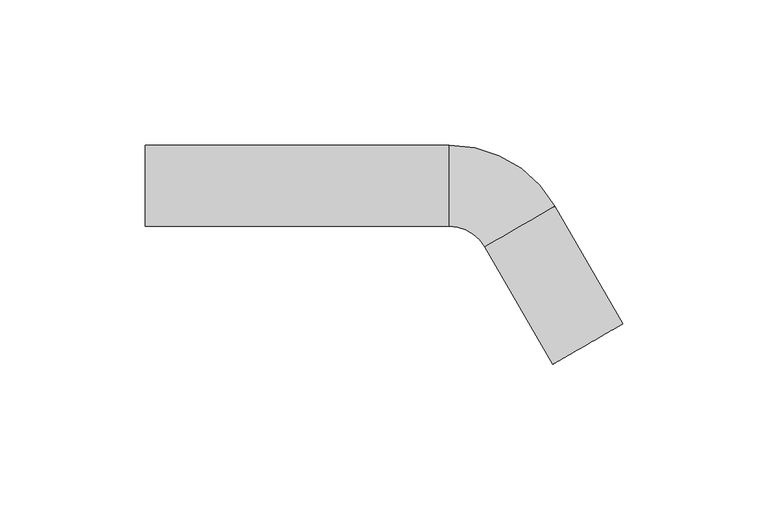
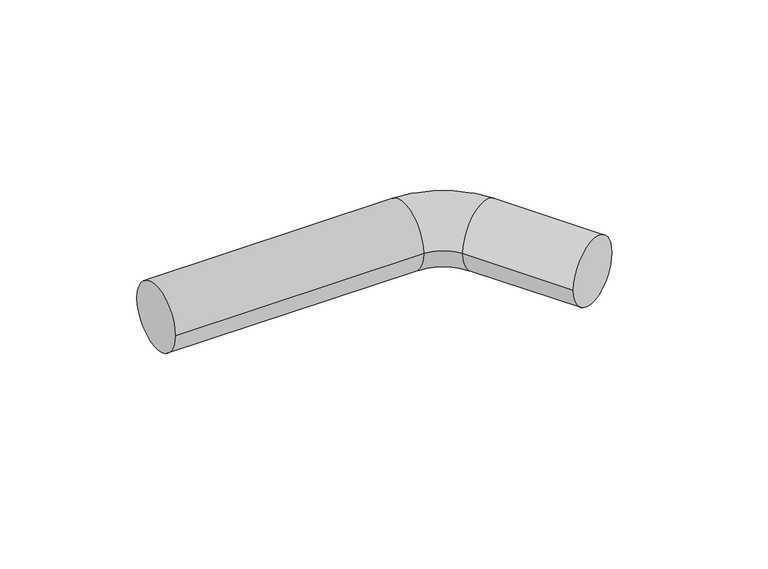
"""IFC4 building model written with IfcOpenShell, lengths in millimetres: pipe fitting geometry, KAN-therm Inox łuk 60 : KAN-therm Inox łuk 60."""

from ifc_helpers import new_model, si_unit, point, frame, origin, place, context, project, spatial, circle_curve, ellipse_curve, trimmed, source, transform, mapped, element, save
from ifc_brep_helpers import plane_surface, cylinder_surface, revolved_surface, advanced_brep


def pipe_fitting_a09a2b74(model_context):
    return source(origin(), model_context, "Body", "AdvancedBrep", [
        advanced_brep(
        [(164.6243557, -47.5596004, 0.0), (140.3756443, -61.5596004, 0.0), (104.8341925, -14.0, 0.0), (116.9585481, -21.0, 0.0), (141.2072594, -7.0, 0.0), (104.8341925, 14.0, 0.0), (0.0, 14.0, 0.0), (0.0, -14.0, 0.0)],
        [
            (0, 1, circle_curve(frame((152.5, -54.5596004, 0.0), z_axis=(0.49999999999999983, -0.8660254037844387, 0.0), x_axis=(-0.8660254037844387, -0.49999999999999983, 0.0)), 14.0)),
            (1, 0, circle_curve(frame((152.5, -54.5596004, 0.0), z_axis=(0.49999999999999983, -0.8660254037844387, 0.0), x_axis=(-0.8660254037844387, -0.49999999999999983, 0.0)), 14.0)),
            (2, 3, circle_curve(frame((104.8341925, -28.0, 0.0), z_axis=(0.0, 0.0, -1.0), x_axis=(0.8660254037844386, 0.5, 0.0)), 14.0)),
            (3, 4, circle_curve(frame((129.0829038, -14.0, 0.0), z_axis=(-0.49999999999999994, 0.8660254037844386, 0.0), x_axis=(-0.8660254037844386, -0.49999999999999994, 0.0)), 14.0)),
            (4, 5, circle_curve(frame((104.8341925, -28.0, 0.0), z_axis=(0.0, 0.0, 1.0), x_axis=(0.8660254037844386, 0.5, 0.0)), 42.0)),
            (5, 2, circle_curve(frame((104.8341925, 0.0, 0.0), z_axis=(1.0, 0.0, 0.0), x_axis=(0.0, -1.0, 0.0)), 14.0)),
            (4, 3, circle_curve(frame((129.0829038, -14.0, 0.0), z_axis=(-0.49999999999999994, 0.8660254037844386, 0.0), x_axis=(-0.8660254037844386, -0.49999999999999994, 0.0)), 14.0)),
            (2, 5, circle_curve(frame((104.8341925, 0.0, 0.0), z_axis=(1.0, 0.0, 0.0), x_axis=(0.0, -1.0, 0.0)), 14.0)),
            (6, 7, circle_curve(frame((0.0, 0.0, 0.0), z_axis=(-1.0, 0.0, 0.0), x_axis=(0.0, -1.0, 0.0)), 14.0)),
            (7, 6, circle_curve(frame((0.0, 0.0, 0.0), z_axis=(-1.0, 0.0, 0.0), x_axis=(0.0, -1.0, 0.0)), 14.0)),
            (5, 6),
            (7, 2),
            (0, 4),
            (3, 1),
        ],
        [
            plane_surface(frame((152.5, -54.5596004, 0.0), z_axis=(0.49999999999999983, -0.8660254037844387, 0.0), x_axis=(0.0, 0.0, 1.0))),
            revolved_surface(trimmed(ellipse_curve(frame((129.0829038, -14.0, 0.0), z_axis=(0.49999999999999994, -0.8660254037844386, 0.0), x_axis=(-0.8660254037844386, -0.49999999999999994, 0.0)), 14.0, 14.0), [point((141.2072594, -7.0, 0.0))], [point((116.9585481, -21.0, 0.0))], True, "CARTESIAN"), (104.8341925, -28.0, 0.0), (0.0, 0.0, 1.0)),
            revolved_surface(trimmed(ellipse_curve(frame((129.0829038, -14.0, 0.0), z_axis=(0.49999999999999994, -0.8660254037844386, 0.0), x_axis=(-0.8660254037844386, -0.49999999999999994, 0.0)), 14.0, 14.0), [point((116.9585481, -21.0, 0.0))], [point((141.2072594, -7.0, 0.0))], True, "CARTESIAN"), (104.8341925, -28.0, 0.0), (0.0, 0.0, 1.0)),
            plane_surface(frame((0.0, 0.0, 0.0), z_axis=(-1.0, 0.0, 0.0), x_axis=(0.0, 0.0, 1.0))),
            cylinder_surface(frame((104.8341925, 0.0, 0.0), z_axis=(1.0, 0.0, 0.0), x_axis=(0.0, -1.0, 0.0)), 14.0),
            cylinder_surface(frame((152.5, -54.5596004, 0.0), z_axis=(0.49999999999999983, -0.8660254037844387, 0.0), x_axis=(-0.8660254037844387, -0.49999999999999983, 0.0)), 14.0),
        ],
        [
            (0, [[1, 2]]),
            (1, [[3, 4, 5, 6]]),
            (2, [[-5, 7, -3, 8]]),
            (3, [[9, 10]]),
            (4, [[-6, 11, -10, 12]]),
            (4, [[-8, -12, -9, -11]]),
            (5, [[-1, 13, -4, 14]]),
            (5, [[-2, -14, -7, -13]]),
        ],
    ),
    ])


if __name__ == "__main__":
    model = new_model("IFC4")
    model_context = context("Model", 3, world=origin())
    ifc_project = project(units=[si_unit("LENGTHUNIT", "METRE", prefix="MILLI")], contexts=[model_context])
    site = spatial("IfcSite", under=ifc_project)
    building = spatial("IfcBuilding", under=site)
    placement = place(None, origin())
    pipe_fitting_shape = pipe_fitting_a09a2b74(model_context)
    element("IfcPipeFitting", 1, ObjectType="KAN-therm Inox łuk 60 : KAN-therm Inox łuk 60", at=placement, inside=building, context=model_context, shape_type="MappedRepresentation", body=[
        mapped(pipe_fitting_shape, transform((0.0, 0.0, 0.0), x_axis=(1.0, 0.0, 0.0), y_axis=(0.0, 1.0, 0.0), z_axis=(0.0, 0.0, 1.0))),
    ])
    save(model, "model.ifc")
